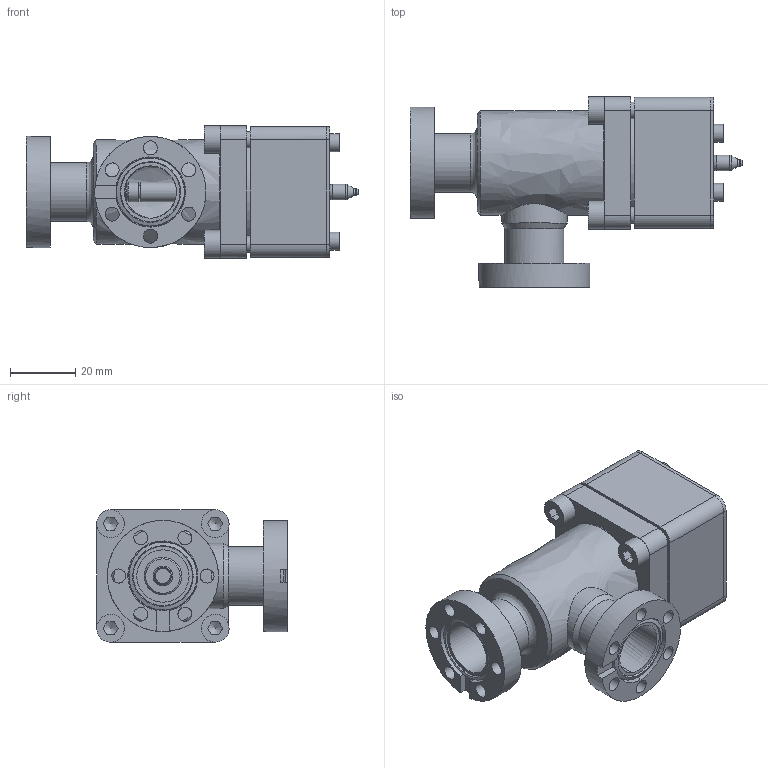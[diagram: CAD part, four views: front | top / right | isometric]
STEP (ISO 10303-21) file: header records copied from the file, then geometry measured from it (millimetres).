
FILE_DESCRIPTION((''),'2;1');
FILE_NAME('C:\TEMP\IDEAS\318360.stp','2006-07-26T16:52:32',('User'),( 'SDRC'),'I-DEAS Master Series 9','UNIX','Yes');
FILE_SCHEMA(('CONFIG_CONTROL_DESIGN'));
Length unit declared in the file: millimetre
Assembly tree (18 placements, depth 0):
Bounding box: 101.55 x 58.3 x 40.49 mm (x, y, z)
Volume: 34744.6 mm3; surface area: 44453.4 mm2
Topology: 19 solids, 20 shells, 336 faces, 716 edges, 453 vertices
Faces by surface type: bspline 336
Entity records: 10983 total; most frequent: CARTESIAN_POINT 5793, ORIENTED_EDGE 1070, EDGE_CURVE 535, VERTEX_POINT 338, EDGE_LOOP 336, FACE_OUTER_BOUND 253, ADVANCED_FACE 253, QUASI_UNIFORM_CURVE 154
